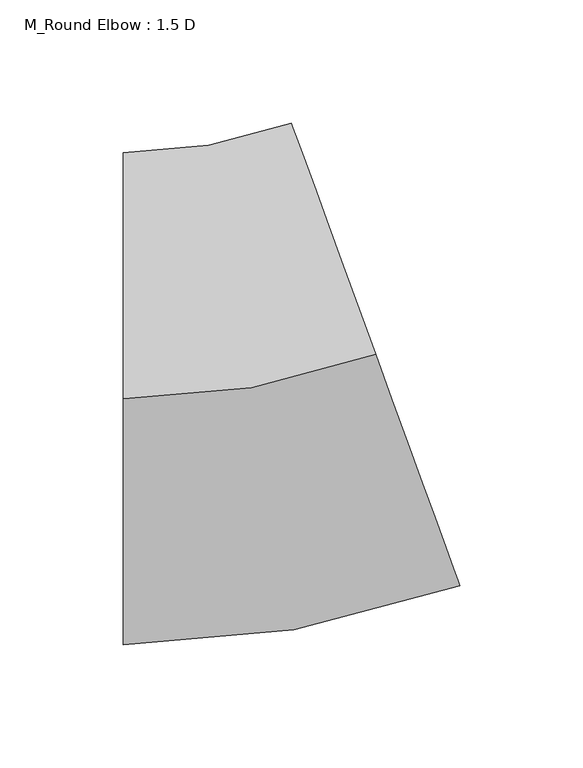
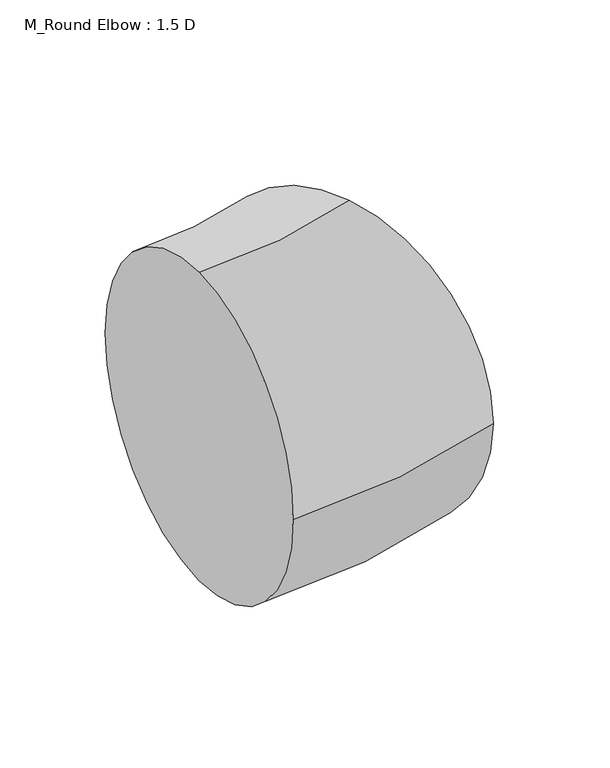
"""IFC4 building model written with IfcOpenShell, lengths in millimetres: duct fitting geometry, M_Round Elbow : 1.5 D."""

from ifc_helpers import new_model, si_unit, point, frame, origin, place, context, project, spatial, circle_curve, ellipse_curve, trimmed, source, transform, mapped, element, save
from ifc_brep_helpers import plane_surface, revolved_surface, advanced_brep


def m_round_elbow_1_5_d_4faea411(model_context):
    return source(origin(), model_context, "Body", "AdvancedBrep", [
        advanced_brep(
        [(-52.8980942, 0.0, 100.0), (-52.8980942, 100.0, 0.0), (-52.8980942, 0.0, -100.0), (-52.8980942, -100.0, 0.0), (49.7079488, 18.0922138, 100.0), (83.9099631, -75.8770483, 0.0), (49.7079488, 18.0922138, -100.0), (15.5059345, 112.0614758, 0.0)],
        [
            (0, 1, circle_curve(frame((-52.8980942, 0.0, 0.0), z_axis=(-1.0, 0.0, 0.0), x_axis=(0.0, 1.0, 0.0)), 100.0)),
            (1, 2, circle_curve(frame((-52.8980942, 0.0, 0.0), z_axis=(-1.0, 0.0, 0.0), x_axis=(0.0, 1.0, 0.0)), 100.0)),
            (2, 3, circle_curve(frame((-52.8980942, 0.0, 0.0), z_axis=(-1.0, 0.0, 0.0), x_axis=(0.0, 1.0, 0.0)), 100.0)),
            (3, 0, circle_curve(frame((-52.8980942, 0.0, 0.0), z_axis=(-1.0, 0.0, 0.0), x_axis=(0.0, 1.0, 0.0)), 100.0)),
            (4, 5, circle_curve(frame((49.7079488, 18.0922138, 0.0), z_axis=(0.9396926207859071, 0.34202014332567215, 0.0), x_axis=(-0.34202014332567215, 0.9396926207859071, 0.0)), 100.0)),
            (5, 6, circle_curve(frame((49.7079488, 18.0922138, 0.0), z_axis=(0.9396926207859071, 0.34202014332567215, 0.0), x_axis=(-0.34202014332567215, 0.9396926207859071, 0.0)), 100.0)),
            (6, 7, circle_curve(frame((49.7079488, 18.0922138, 0.0), z_axis=(0.9396926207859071, 0.34202014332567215, 0.0), x_axis=(-0.34202014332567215, 0.9396926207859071, 0.0)), 100.0)),
            (7, 4, circle_curve(frame((49.7079488, 18.0922138, 0.0), z_axis=(0.9396926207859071, 0.34202014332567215, 0.0), x_axis=(-0.34202014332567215, 0.9396926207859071, 0.0)), 100.0)),
            (7, 1, circle_curve(frame((-52.8980942, 300.0, 0.0), z_axis=(0.0, 0.0, -1.0), x_axis=(0.0, -1.0, 0.0)), 200.0)),
            (0, 4, circle_curve(frame((-52.8980942, 300.0, 100.0), z_axis=(0.0, 0.0, 1.0), x_axis=(0.0, -1.0, 0.0)), 300.0)),
            (6, 2, circle_curve(frame((-52.8980942, 300.0, -100.0), z_axis=(0.0, 0.0, -1.0), x_axis=(0.0, -1.0, 0.0)), 300.0)),
            (5, 3, circle_curve(frame((-52.8980942, 300.0, 0.0), z_axis=(0.0, 0.0, -1.0), x_axis=(0.0, -1.0, 0.0)), 400.0)),
        ],
        [
            plane_surface(frame((-52.8980942, 0.0, 0.0), z_axis=(-1.0, 0.0, 0.0), x_axis=(0.0, 0.0, 1.0))),
            plane_surface(frame((49.7079488, 18.0922138, 0.0), z_axis=(0.9396926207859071, 0.3420201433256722, 0.0), x_axis=(0.0, 0.0, 1.0))),
            revolved_surface(trimmed(ellipse_curve(frame((-52.8980942, 0.0, 0.0), z_axis=(-1.0, 0.0, 0.0), x_axis=(0.0, 1.0, 0.0)), 100.0, 100.0), [point((-52.8980942, 0.0, 100.0))], [point((-52.8980942, 100.0, 0.0))], True, "CARTESIAN"), (-52.8980942, 300.0, 0.0), (0.0, 0.0, 1.0)),
            revolved_surface(trimmed(ellipse_curve(frame((-52.8980942, 0.0, 0.0), z_axis=(-1.0, 0.0, 0.0), x_axis=(0.0, 1.0, 0.0)), 100.0, 100.0), [point((-52.8980942, 100.0, 0.0))], [point((-52.8980942, 0.0, -100.0))], True, "CARTESIAN"), (-52.8980942, 300.0, 0.0), (0.0, 0.0, 1.0)),
            revolved_surface(trimmed(ellipse_curve(frame((-52.8980942, 0.0, 0.0), z_axis=(-1.0, 0.0, 0.0), x_axis=(0.0, 1.0, 0.0)), 100.0, 100.0), [point((-52.8980942, 0.0, -100.0))], [point((-52.8980942, -100.0, 0.0))], True, "CARTESIAN"), (-52.8980942, 300.0, 0.0), (0.0, 0.0, 1.0)),
            revolved_surface(trimmed(ellipse_curve(frame((-52.8980942, 0.0, 0.0), z_axis=(-1.0, 0.0, 0.0), x_axis=(0.0, 1.0, 0.0)), 100.0, 100.0), [point((-52.8980942, -100.0, 0.0))], [point((-52.8980942, 0.0, 100.0))], True, "CARTESIAN"), (-52.8980942, 300.0, 0.0), (0.0, 0.0, 1.0)),
        ],
        [
            (0, [[1, 2, 3, 4]]),
            (1, [[5, 6, 7, 8]]),
            (2, [[9, -1, 10, -8]]),
            (3, [[11, -2, -9, -7]]),
            (4, [[12, -3, -11, -6]]),
            (5, [[-10, -4, -12, -5]]),
        ],
    ),
        advanced_brep(
        [(-52.8980942, 0.0, 100.0), (-52.8980942, 100.0, 0.0), (-52.8980942, 0.0, -100.0), (-52.8980942, -100.0, 0.0), (49.7079488, 18.0922138, 100.0), (83.9099631, -75.8770483, 0.0), (49.7079488, 18.0922138, -100.0), (15.5059345, 112.0614758, 0.0)],
        [
            (0, 1, circle_curve(frame((-52.8980942, 0.0, 0.0), z_axis=(-1.0, 0.0, 0.0), x_axis=(0.0, 1.0, 0.0)), 100.0)),
            (1, 2, circle_curve(frame((-52.8980942, 0.0, 0.0), z_axis=(-1.0, 0.0, 0.0), x_axis=(0.0, 1.0, 0.0)), 100.0)),
            (2, 3, circle_curve(frame((-52.8980942, 0.0, 0.0), z_axis=(-1.0, 0.0, 0.0), x_axis=(0.0, 1.0, 0.0)), 100.0)),
            (3, 0, circle_curve(frame((-52.8980942, 0.0, 0.0), z_axis=(-1.0, 0.0, 0.0), x_axis=(0.0, 1.0, 0.0)), 100.0)),
            (4, 5, circle_curve(frame((49.7079488, 18.0922138, 0.0), z_axis=(0.9396926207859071, 0.34202014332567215, 0.0), x_axis=(-0.34202014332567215, 0.9396926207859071, 0.0)), 100.0)),
            (5, 6, circle_curve(frame((49.7079488, 18.0922138, 0.0), z_axis=(0.9396926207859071, 0.34202014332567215, 0.0), x_axis=(-0.34202014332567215, 0.9396926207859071, 0.0)), 100.0)),
            (6, 7, circle_curve(frame((49.7079488, 18.0922138, 0.0), z_axis=(0.9396926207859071, 0.34202014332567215, 0.0), x_axis=(-0.34202014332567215, 0.9396926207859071, 0.0)), 100.0)),
            (7, 4, circle_curve(frame((49.7079488, 18.0922138, 0.0), z_axis=(0.9396926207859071, 0.34202014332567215, 0.0), x_axis=(-0.34202014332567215, 0.9396926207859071, 0.0)), 100.0)),
            (7, 1, circle_curve(frame((-52.8980942, 300.0, 0.0), z_axis=(0.0, 0.0, -1.0), x_axis=(0.0, -1.0, 0.0)), 200.0)),
            (0, 4, circle_curve(frame((-52.8980942, 300.0, 100.0), z_axis=(0.0, 0.0, 1.0), x_axis=(0.0, -1.0, 0.0)), 300.0)),
            (6, 2, circle_curve(frame((-52.8980942, 300.0, -100.0), z_axis=(0.0, 0.0, -1.0), x_axis=(0.0, -1.0, 0.0)), 300.0)),
            (5, 3, circle_curve(frame((-52.8980942, 300.0, 0.0), z_axis=(0.0, 0.0, -1.0), x_axis=(0.0, -1.0, 0.0)), 400.0)),
        ],
        [
            plane_surface(frame((-52.8980942, 0.0, 0.0), z_axis=(-1.0, 0.0, 0.0), x_axis=(0.0, 0.0, 1.0))),
            plane_surface(frame((49.7079488, 18.0922138, 0.0), z_axis=(0.9396926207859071, 0.3420201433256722, 0.0), x_axis=(0.0, 0.0, 1.0))),
            revolved_surface(trimmed(ellipse_curve(frame((-52.8980942, 0.0, 0.0), z_axis=(-1.0, 0.0, 0.0), x_axis=(0.0, 1.0, 0.0)), 100.0, 100.0), [point((-52.8980942, 0.0, 100.0))], [point((-52.8980942, 100.0, 0.0))], True, "CARTESIAN"), (-52.8980942, 300.0, 0.0), (0.0, 0.0, 1.0)),
            revolved_surface(trimmed(ellipse_curve(frame((-52.8980942, 0.0, 0.0), z_axis=(-1.0, 0.0, 0.0), x_axis=(0.0, 1.0, 0.0)), 100.0, 100.0), [point((-52.8980942, 100.0, 0.0))], [point((-52.8980942, 0.0, -100.0))], True, "CARTESIAN"), (-52.8980942, 300.0, 0.0), (0.0, 0.0, 1.0)),
            revolved_surface(trimmed(ellipse_curve(frame((-52.8980942, 0.0, 0.0), z_axis=(-1.0, 0.0, 0.0), x_axis=(0.0, 1.0, 0.0)), 100.0, 100.0), [point((-52.8980942, 0.0, -100.0))], [point((-52.8980942, -100.0, 0.0))], True, "CARTESIAN"), (-52.8980942, 300.0, 0.0), (0.0, 0.0, 1.0)),
            revolved_surface(trimmed(ellipse_curve(frame((-52.8980942, 0.0, 0.0), z_axis=(-1.0, 0.0, 0.0), x_axis=(0.0, 1.0, 0.0)), 100.0, 100.0), [point((-52.8980942, -100.0, 0.0))], [point((-52.8980942, 0.0, 100.0))], True, "CARTESIAN"), (-52.8980942, 300.0, 0.0), (0.0, 0.0, 1.0)),
        ],
        [
            (0, [[1, 2, 3, 4]]),
            (1, [[5, 6, 7, 8]]),
            (2, [[9, -1, 10, -8]]),
            (3, [[11, -2, -9, -7]]),
            (4, [[12, -3, -11, -6]]),
            (5, [[-10, -4, -12, -5]]),
        ],
    ),
        advanced_brep(
        [(-52.8980942, 0.0, 100.0), (-52.8980942, 100.0, 0.0), (-52.8980942, 0.0, -100.0), (-52.8980942, -100.0, 0.0), (49.7079488, 18.0922138, 100.0), (83.9099631, -75.8770483, 0.0), (49.7079488, 18.0922138, -100.0), (15.5059345, 112.0614758, 0.0)],
        [
            (0, 1, circle_curve(frame((-52.8980942, 0.0, 0.0), z_axis=(-1.0, 0.0, 0.0), x_axis=(0.0, 1.0, 0.0)), 100.0)),
            (1, 2, circle_curve(frame((-52.8980942, 0.0, 0.0), z_axis=(-1.0, 0.0, 0.0), x_axis=(0.0, 1.0, 0.0)), 100.0)),
            (2, 3, circle_curve(frame((-52.8980942, 0.0, 0.0), z_axis=(-1.0, 0.0, 0.0), x_axis=(0.0, 1.0, 0.0)), 100.0)),
            (3, 0, circle_curve(frame((-52.8980942, 0.0, 0.0), z_axis=(-1.0, 0.0, 0.0), x_axis=(0.0, 1.0, 0.0)), 100.0)),
            (4, 5, circle_curve(frame((49.7079488, 18.0922138, 0.0), z_axis=(0.9396926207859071, 0.34202014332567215, 0.0), x_axis=(-0.34202014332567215, 0.9396926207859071, 0.0)), 100.0)),
            (5, 6, circle_curve(frame((49.7079488, 18.0922138, 0.0), z_axis=(0.9396926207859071, 0.34202014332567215, 0.0), x_axis=(-0.34202014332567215, 0.9396926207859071, 0.0)), 100.0)),
            (6, 7, circle_curve(frame((49.7079488, 18.0922138, 0.0), z_axis=(0.9396926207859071, 0.34202014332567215, 0.0), x_axis=(-0.34202014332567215, 0.9396926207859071, 0.0)), 100.0)),
            (7, 4, circle_curve(frame((49.7079488, 18.0922138, 0.0), z_axis=(0.9396926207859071, 0.34202014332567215, 0.0), x_axis=(-0.34202014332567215, 0.9396926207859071, 0.0)), 100.0)),
            (7, 1, circle_curve(frame((-52.8980942, 300.0, 0.0), z_axis=(0.0, 0.0, -1.0), x_axis=(0.0, -1.0, 0.0)), 200.0)),
            (0, 4, circle_curve(frame((-52.8980942, 300.0, 100.0), z_axis=(0.0, 0.0, 1.0), x_axis=(0.0, -1.0, 0.0)), 300.0)),
            (6, 2, circle_curve(frame((-52.8980942, 300.0, -100.0), z_axis=(0.0, 0.0, -1.0), x_axis=(0.0, -1.0, 0.0)), 300.0)),
            (5, 3, circle_curve(frame((-52.8980942, 300.0, 0.0), z_axis=(0.0, 0.0, -1.0), x_axis=(0.0, -1.0, 0.0)), 400.0)),
        ],
        [
            plane_surface(frame((-52.8980942, 0.0, 0.0), z_axis=(-1.0, 0.0, 0.0), x_axis=(0.0, 0.0, 1.0))),
            plane_surface(frame((49.7079488, 18.0922138, 0.0), z_axis=(0.9396926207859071, 0.3420201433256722, 0.0), x_axis=(0.0, 0.0, 1.0))),
            revolved_surface(trimmed(ellipse_curve(frame((-52.8980942, 0.0, 0.0), z_axis=(-1.0, 0.0, 0.0), x_axis=(0.0, 1.0, 0.0)), 100.0, 100.0), [point((-52.8980942, 0.0, 100.0))], [point((-52.8980942, 100.0, 0.0))], True, "CARTESIAN"), (-52.8980942, 300.0, 0.0), (0.0, 0.0, 1.0)),
            revolved_surface(trimmed(ellipse_curve(frame((-52.8980942, 0.0, 0.0), z_axis=(-1.0, 0.0, 0.0), x_axis=(0.0, 1.0, 0.0)), 100.0, 100.0), [point((-52.8980942, 100.0, 0.0))], [point((-52.8980942, 0.0, -100.0))], True, "CARTESIAN"), (-52.8980942, 300.0, 0.0), (0.0, 0.0, 1.0)),
            revolved_surface(trimmed(ellipse_curve(frame((-52.8980942, 0.0, 0.0), z_axis=(-1.0, 0.0, 0.0), x_axis=(0.0, 1.0, 0.0)), 100.0, 100.0), [point((-52.8980942, 0.0, -100.0))], [point((-52.8980942, -100.0, 0.0))], True, "CARTESIAN"), (-52.8980942, 300.0, 0.0), (0.0, 0.0, 1.0)),
            revolved_surface(trimmed(ellipse_curve(frame((-52.8980942, 0.0, 0.0), z_axis=(-1.0, 0.0, 0.0), x_axis=(0.0, 1.0, 0.0)), 100.0, 100.0), [point((-52.8980942, -100.0, 0.0))], [point((-52.8980942, 0.0, 100.0))], True, "CARTESIAN"), (-52.8980942, 300.0, 0.0), (0.0, 0.0, 1.0)),
        ],
        [
            (0, [[1, 2, 3, 4]]),
            (1, [[5, 6, 7, 8]]),
            (2, [[9, -1, 10, -8]]),
            (3, [[11, -2, -9, -7]]),
            (4, [[12, -3, -11, -6]]),
            (5, [[-10, -4, -12, -5]]),
        ],
    ),
    ])


if __name__ == "__main__":
    model = new_model("IFC4")
    model_context = context("Model", 3, world=origin())
    ifc_project = project(units=[si_unit("LENGTHUNIT", "METRE", prefix="MILLI")], contexts=[model_context])
    site = spatial("IfcSite", under=ifc_project)
    building = spatial("IfcBuilding", under=site)
    placement = place(None, origin())
    m_round_elbow_1_5_d_shape = m_round_elbow_1_5_d_4faea411(model_context)
    element("IfcDuctFitting", 1, ObjectType="M_Round Elbow : 1.5 D", at=placement, inside=building, context=model_context, shape_type="MappedRepresentation", body=[
        mapped(m_round_elbow_1_5_d_shape, transform((0.0, 0.0, 0.0), x_axis=(1.0, 0.0, 0.0), y_axis=(0.0, 1.0, 0.0), z_axis=(0.0, 0.0, 1.0))),
    ])
    save(model, "model.ifc")
